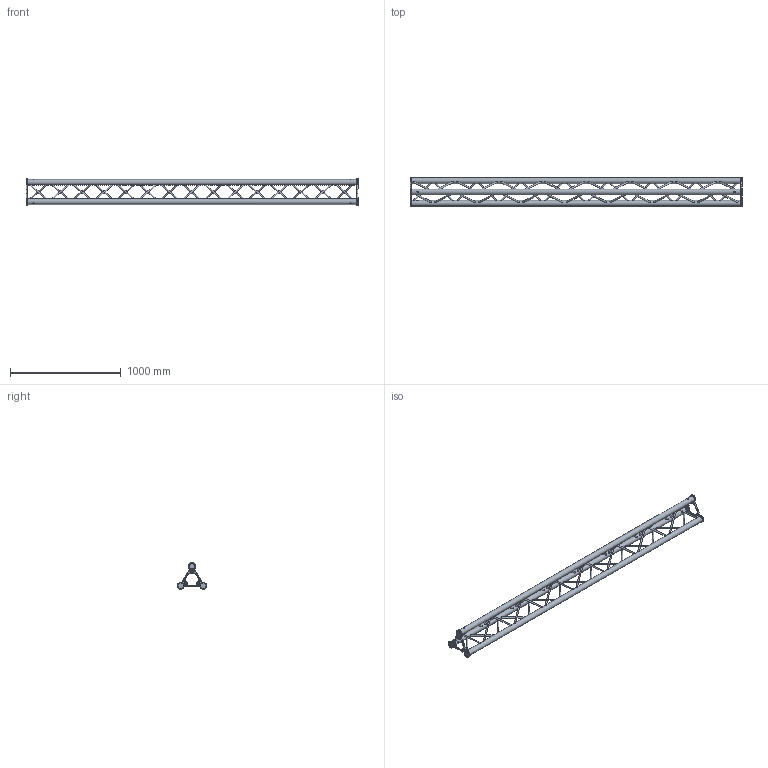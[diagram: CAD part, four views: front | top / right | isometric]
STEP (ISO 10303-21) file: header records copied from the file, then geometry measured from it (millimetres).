
FILE_DESCRIPTION(/* description */ (''),/* implementation_level */ '2;1');
FILE_NAME(/* name */ 'C:\Users\stephan\Desktop\A03\112040016.stp',/* time_stamp */ '2016-01-20T15:06:40+01:00',/* author */ ('Stephan'),/* organization */ (''),/* preprocessor_version */ 'ST-DEVELOPER v15.6',/* originating_system */ 'Autodesk Inventor 2015',/* authorisation */ '');
FILE_SCHEMA (('AUTOMOTIVE_DESIGN { 1 0 10303 214 3 1 1 }'));
Length unit declared in the file: millimetre
Products named in the file (1): 160025650
Bounding box: 3000 x 266.3 x 239.1 mm (x, y, z)
Volume: 19675471.3 mm3; surface area: 1946698.8 mm2
Topology: 52 solids, 52 shells, 454 faces, 900 edges, 564 vertices
Faces by surface type: plane 282, cylinder 148, cone 12, torus 12
Full cylindrical faces by diameter (mm): 10.5 x6, 11.5 x12, 12.7 x45, 23.5 x6, 50.8 x3, 51.3 x6, 63.3 x6
Entity records: 13333 total; most frequent: CARTESIAN_POINT 3401, DIRECTION 1896, ORIENTED_EDGE 1728, AXIS2_PLACEMENT_3D 795, EDGE_CURVE 774, EDGE_LOOP 696, VERTEX_POINT 540, STYLED_ITEM 453
